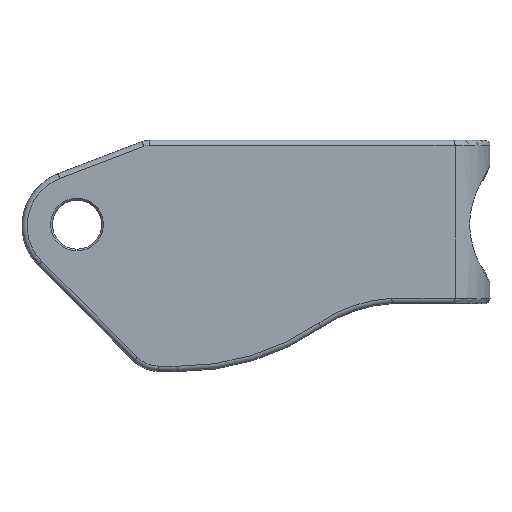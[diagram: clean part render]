
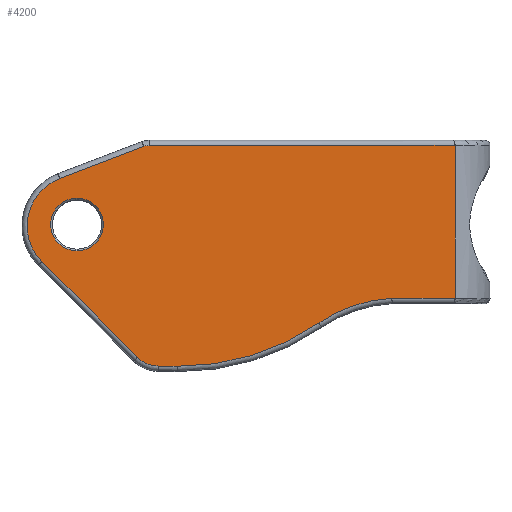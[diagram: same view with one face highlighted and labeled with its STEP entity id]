
A CAD part, top view. The second image highlights one B-rep face of the part: STEP entity #4200.
In plain terms, the highlighted planar face has unit normal (0, 0, 1).
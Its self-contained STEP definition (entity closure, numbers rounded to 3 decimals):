
#27 = EDGE_CURVE ( 'NONE', #2587, #1749, #3349, .T. ) ;
#78 = ORIENTED_EDGE ( 'NONE', *, *, #2239, .T. ) ;
#195 = CIRCLE ( 'NONE', #5172, 144.691 ) ;
#249 = DIRECTION ( 'NONE',  ( 0., 0., -1. ) ) ;
#320 = VERTEX_POINT ( 'NONE', #3334 ) ;
#343 = EDGE_CURVE ( 'NONE', #320, #4342, #2532, .T. ) ;
#414 = CARTESIAN_POINT ( 'NONE',  ( 81.066, 15.98, -289.48 ) ) ;
#492 = CARTESIAN_POINT ( 'NONE',  ( 26.296, -29.907, -289.48 ) ) ;
#502 = DIRECTION ( 'NONE',  ( 0., 0., -1. ) ) ;
#508 = DIRECTION ( 'NONE',  ( 0., 0., 1. ) ) ;
#544 = VECTOR ( 'NONE', #1075, 1000. ) ;
#574 = EDGE_CURVE ( 'NONE', #1798, #4980, #1895, .T. ) ;
#632 = VECTOR ( 'NONE', #3623, 1000. ) ;
#665 = ORIENTED_EDGE ( 'NONE', *, *, #1991, .T. ) ;
#714 = VERTEX_POINT ( 'NONE', #2024 ) ;
#719 = PLANE ( 'NONE',  #4668 ) ;
#730 = DIRECTION ( 'NONE',  ( 1., 0., 0. ) ) ;
#798 = CIRCLE ( 'NONE', #4685, 83.009 ) ;
#820 = CARTESIAN_POINT ( 'NONE',  ( 41.796, -29.907, -289.48 ) ) ;
#850 = VERTEX_POINT ( 'NONE', #1725 ) ;
#880 = DIRECTION ( 'NONE',  ( 1., -0.01, 0. ) ) ;
#976 = VECTOR ( 'NONE', #880, 1000. ) ;
#1075 = DIRECTION ( 'NONE',  ( 0.706, -0.708, 0. ) ) ;
#1113 = EDGE_CURVE ( 'NONE', #714, #1421, #3748, .T. ) ;
#1155 = DIRECTION ( 'NONE',  ( 0., 0., 1. ) ) ;
#1323 = VERTEX_POINT ( 'NONE', #4039 ) ;
#1374 = ORIENTED_EDGE ( 'NONE', *, *, #343, .T. ) ;
#1421 = VERTEX_POINT ( 'NONE', #2496 ) ;
#1496 = ORIENTED_EDGE ( 'NONE', *, *, #2406, .T. ) ;
#1545 = CARTESIAN_POINT ( 'NONE',  ( 84.277, 16.572, -289.48 ) ) ;
#1548 = CIRCLE ( 'NONE', #2228, 17.599 ) ;
#1561 = FACE_BOUND ( 'NONE', #3419, .T. ) ;
#1631 = EDGE_CURVE ( 'NONE', #1421, #1983, #4695, .T. ) ;
#1724 = VECTOR ( 'NONE', #1726, 1000. ) ;
#1725 = CARTESIAN_POINT ( 'NONE',  ( 184.085, -87.86, -289.48 ) ) ;
#1726 = DIRECTION ( 'NONE',  ( -1., 0., 0. ) ) ;
#1749 = VERTEX_POINT ( 'NONE', #414 ) ;
#1798 = VERTEX_POINT ( 'NONE', #492 ) ;
#1895 = CIRCLE ( 'NONE', #2736, 15.5 ) ;
#1942 = CARTESIAN_POINT ( 'NONE',  ( 0.001, -73.356, -289.48 ) ) ;
#1983 = VERTEX_POINT ( 'NONE', #3392 ) ;
#1991 = EDGE_CURVE ( 'NONE', #1323, #2587, #2515, .T. ) ;
#2000 = DIRECTION ( 'NONE',  ( 1., 0., 0. ) ) ;
#2013 = CARTESIAN_POINT ( 'NONE',  ( 4.992, -13.069, -289.48 ) ) ;
#2024 = CARTESIAN_POINT ( 'NONE',  ( 31.584, -2.914, -289.48 ) ) ;
#2146 = EDGE_CURVE ( 'NONE', #850, #3679, #798, .T. ) ;
#2212 = CARTESIAN_POINT ( 'NONE',  ( 264.171, -73.356, -289.48 ) ) ;
#2221 = CARTESIAN_POINT ( 'NONE',  ( 84.277, 16.572, -289.48 ) ) ;
#2225 = CARTESIAN_POINT ( 'NONE',  ( 0.001, 16.572, -289.48 ) ) ;
#2228 = AXIS2_PLACEMENT_3D ( 'NONE', #5204, #1155, #730 ) ;
#2239 = EDGE_CURVE ( 'NONE', #1749, #714, #2772, .T. ) ;
#2299 = DIRECTION ( 'NONE',  ( 0., 0., 1. ) ) ;
#2327 = CARTESIAN_POINT ( 'NONE',  ( 0.001, 0.001, -289.48 ) ) ;
#2367 = ORIENTED_EDGE ( 'NONE', *, *, #1113, .T. ) ;
#2406 = EDGE_CURVE ( 'NONE', #4682, #1323, #5030, .T. ) ;
#2496 = CARTESIAN_POINT ( 'NONE',  ( 21.128, -51.738, -289.48 ) ) ;
#2515 = LINE ( 'NONE', #2225, #1724 ) ;
#2532 = LINE ( 'NONE', #3649, #976 ) ;
#2555 = CARTESIAN_POINT ( 'NONE',  ( 102.119, 31.376, -289.48 ) ) ;
#2587 = VERTEX_POINT ( 'NONE', #1545 ) ;
#2668 = CARTESIAN_POINT ( 'NONE',  ( 81.066, 15.98, -289.48 ) ) ;
#2736 = AXIS2_PLACEMENT_3D ( 'NONE', #820, #502, #2818 ) ;
#2737 = CARTESIAN_POINT ( 'NONE',  ( 57.296, -29.907, -289.48 ) ) ;
#2772 = LINE ( 'NONE', #2013, #632 ) ;
#2818 = DIRECTION ( 'NONE',  ( 1., 0., 0. ) ) ;
#2844 = ORIENTED_EDGE ( 'NONE', *, *, #3765, .T. ) ;
#2871 = DIRECTION ( 'NONE',  ( 0., 0., 1. ) ) ;
#2892 = ORIENTED_EDGE ( 'NONE', *, *, #2146, .T. ) ;
#2893 = AXIS2_PLACEMENT_3D ( 'NONE', #2896, #2871, #3697 ) ;
#2896 = CARTESIAN_POINT ( 'NONE',  ( 42.202, -30.72, -289.48 ) ) ;
#3002 = CARTESIAN_POINT ( 'NONE',  ( 264.171, -156.5, -289.48 ) ) ;
#3012 = CARTESIAN_POINT ( 'NONE',  ( 82.636, 16.471, -289.48 ) ) ;
#3212 = ORIENTED_EDGE ( 'NONE', *, *, #4348, .T. ) ;
#3313 = CIRCLE ( 'NONE', #4250, 15.5 ) ;
#3334 = CARTESIAN_POINT ( 'NONE',  ( 89.566, -113.202, -289.48 ) ) ;
#3349 = B_SPLINE_CURVE_WITH_KNOTS ( 'NONE', 3,
 ( #2221, #4292, #3012, #4689, #2668 ),
 .UNSPECIFIED., .F., .F.,
 ( 4, 1, 4 ),
 ( 0., 0.002, 0.003 ),
 .UNSPECIFIED. ) ;
#3381 = DIRECTION ( 'NONE',  ( 0., 0., -1. ) ) ;
#3392 = CARTESIAN_POINT ( 'NONE',  ( 77.273, -108.032, -289.48 ) ) ;
#3407 = CARTESIAN_POINT ( 'NONE',  ( 41.796, -29.907, -289.48 ) ) ;
#3419 = EDGE_LOOP ( 'NONE', ( #3212, #3529 ) ) ;
#3501 = CARTESIAN_POINT ( 'NONE',  ( -15.277, -15.237, -289.48 ) ) ;
#3508 = CARTESIAN_POINT ( 'NONE',  ( 227.05, -73.356, -289.48 ) ) ;
#3522 = DIRECTION ( 'NONE',  ( 1., 0., 0. ) ) ;
#3529 = ORIENTED_EDGE ( 'NONE', *, *, #574, .T. ) ;
#3623 = DIRECTION ( 'NONE',  ( -0.934, -0.357, 0. ) ) ;
#3649 = CARTESIAN_POINT ( 'NONE',  ( -1.073, -112.335, -289.48 ) ) ;
#3654 = ORIENTED_EDGE ( 'NONE', *, *, #3805, .T. ) ;
#3679 = VERTEX_POINT ( 'NONE', #3508 ) ;
#3697 = DIRECTION ( 'NONE',  ( 1., 0., 0. ) ) ;
#3702 = ORIENTED_EDGE ( 'NONE', *, *, #4772, .T. ) ;
#3748 = CIRCLE ( 'NONE', #2893, 29.764 ) ;
#3765 = EDGE_CURVE ( 'NONE', #1983, #320, #1548, .T. ) ;
#3783 = CARTESIAN_POINT ( 'NONE',  ( 100.735, -113.309, -289.48 ) ) ;
#3805 = EDGE_CURVE ( 'NONE', #3679, #4682, #4383, .T. ) ;
#3853 = ORIENTED_EDGE ( 'NONE', *, *, #27, .T. ) ;
#4039 = CARTESIAN_POINT ( 'NONE',  ( 264.171, 16.572, -289.48 ) ) ;
#4074 = VECTOR ( 'NONE', #2000, 1000. ) ;
#4157 = DIRECTION ( 'NONE',  ( 1., 0., 0. ) ) ;
#4200 = ADVANCED_FACE ( 'NONE', ( #5192, #1561 ), #719, .T. ) ;
#4250 = AXIS2_PLACEMENT_3D ( 'NONE', #3407, #3381, #5002 ) ;
#4292 = CARTESIAN_POINT ( 'NONE',  ( 83.723, 16.572, -289.48 ) ) ;
#4294 = CARTESIAN_POINT ( 'NONE',  ( 231.108, -156.266, -289.48 ) ) ;
#4300 = ORIENTED_EDGE ( 'NONE', *, *, #1631, .T. ) ;
#4304 = DIRECTION ( 'NONE',  ( 0., 1., 0. ) ) ;
#4342 = VERTEX_POINT ( 'NONE', #3783 ) ;
#4348 = EDGE_CURVE ( 'NONE', #4980, #1798, #3313, .T. ) ;
#4383 = LINE ( 'NONE', #1942, #4074 ) ;
#4555 = EDGE_LOOP ( 'NONE', ( #3654, #1496, #665, #3853, #78, #2367, #4300, #2844, #1374, #3702, #2892 ) ) ;
#4668 = AXIS2_PLACEMENT_3D ( 'NONE', #2327, #2299, #3522 ) ;
#4682 = VERTEX_POINT ( 'NONE', #2212 ) ;
#4685 = AXIS2_PLACEMENT_3D ( 'NONE', #4294, #249, #4691 ) ;
#4689 = CARTESIAN_POINT ( 'NONE',  ( 81.583, 16.177, -289.48 ) ) ;
#4691 = DIRECTION ( 'NONE',  ( 1., 0., 0. ) ) ;
#4695 = LINE ( 'NONE', #3501, #544 ) ;
#4772 = EDGE_CURVE ( 'NONE', #4342, #850, #195, .T. ) ;
#4947 = VECTOR ( 'NONE', #4304, 1000. ) ;
#4980 = VERTEX_POINT ( 'NONE', #2737 ) ;
#5002 = DIRECTION ( 'NONE',  ( 1., 0., 0. ) ) ;
#5030 = LINE ( 'NONE', #3002, #4947 ) ;
#5172 = AXIS2_PLACEMENT_3D ( 'NONE', #2555, #508, #4157 ) ;
#5192 = FACE_OUTER_BOUND ( 'NONE', #4555, .T. ) ;
#5204 = CARTESIAN_POINT ( 'NONE',  ( 89.734, -95.604, -289.48 ) ) ;
